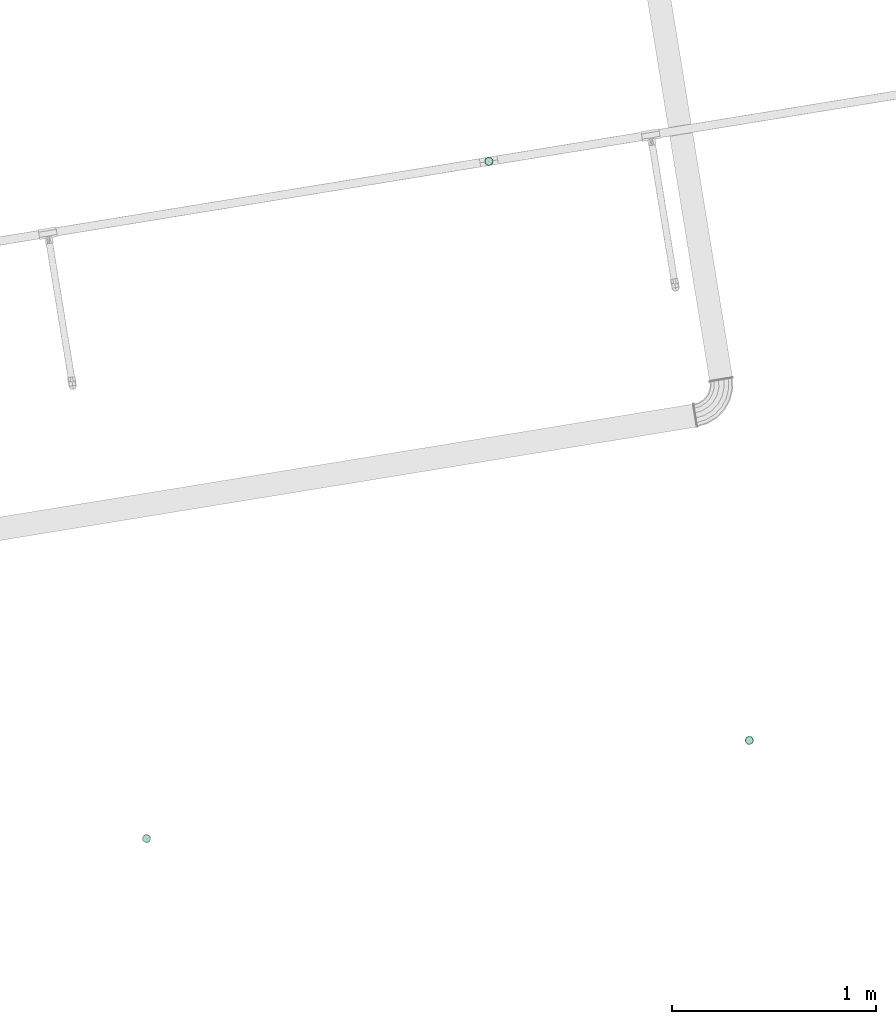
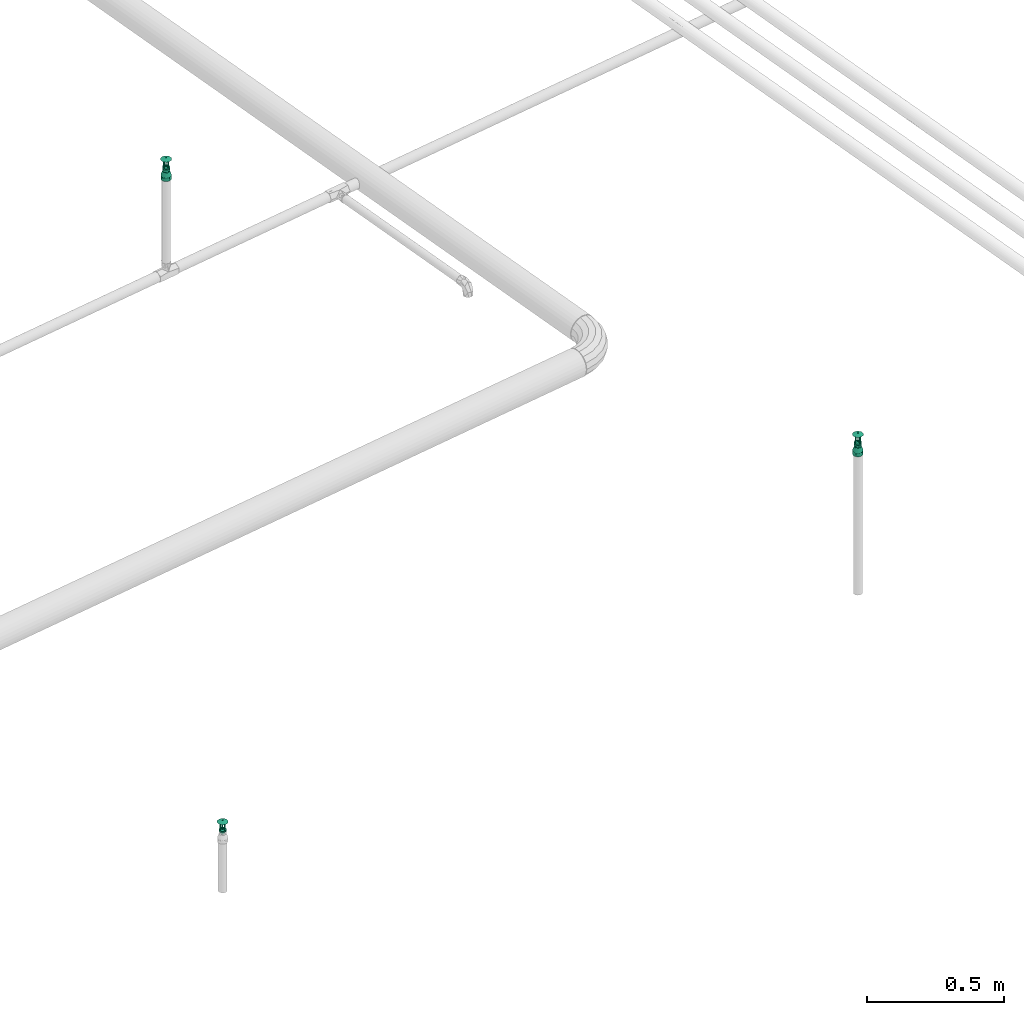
# One storey, part 36 of 46: 3 flow terminals, 2 flow fittings.
"""IFC2X3 building model written with IfcOpenShell, lengths in millimetres."""

from ifc_helpers import new_model, entity, si_unit, converted_unit, derived_unit, direction, frame, origin, origin_with_axes, place, context, subcontext, project, spatial, faceted_brep, source, transform, mapped, material, type_object, element, save


model = new_model("IFC2X3")

# Units and contexts
model_context = context("Model", 3, precision=0.01, world=origin(), true_north=direction((6.12323399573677e-17, 1.0)))
plan_context = context("Plan", 3, precision=1e-05, world=origin_with_axes())
body_context = subcontext(model_context, "Body", "Model", "MODEL_VIEW")
ifc_project = project(units=[converted_unit("PLANEANGLEUNIT", "DEGREE", entity("IfcPositiveLengthMeasure", 0.0174532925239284), si_unit("PLANEANGLEUNIT", "RADIAN"), dimensions=[0, 0, 0, 0, 0, 0, 0]), si_unit("AREAUNIT", "SQUARE_METRE"), si_unit("LENGTHUNIT", "METRE", prefix="MILLI"), si_unit("MASSUNIT", "GRAM", prefix="KILO"), si_unit("POWERUNIT", "WATT"), si_unit("PRESSUREUNIT", "PASCAL", prefix="KILO"), si_unit("FORCEUNIT", "NEWTON", prefix="KILO"), si_unit("ELECTRICVOLTAGEUNIT", "VOLT"), si_unit("ELECTRICCURRENTUNIT", "AMPERE"), si_unit("THERMODYNAMICTEMPERATUREUNIT", "DEGREE_CELSIUS"), si_unit("TIMEUNIT", "SECOND"), si_unit("VOLUMEUNIT", "CUBIC_METRE"), derived_unit("LINEARVELOCITYUNIT", [(si_unit("LENGTHUNIT", "METRE"), 1), (si_unit("TIMEUNIT", "SECOND"), -1)]), derived_unit("VOLUMETRICFLOWRATEUNIT", [(si_unit("VOLUMEUNIT", "CUBIC_METRE"), 1), (si_unit("TIMEUNIT", "SECOND"), -1)]), derived_unit("THERMALTRANSMITTANCEUNIT", [(si_unit("POWERUNIT", "WATT"), 1), (si_unit("THERMODYNAMICTEMPERATUREUNIT", "KELVIN"), -1), (si_unit("AREAUNIT", "SQUARE_METRE"), -1)]), derived_unit("SOUNDPRESSUREUNIT", [(si_unit("PRESSUREUNIT", "PASCAL"), 1)])], contexts=[model_context, plan_context])

# Site, building, storey
site_placement = place(None, frame((-3.09682673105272e-06, 1.93776733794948e-05, 0.0), z_axis=(0.0, 0.0, 1.0), x_axis=(-0.160806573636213, 0.986985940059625, 0.0)))
site = spatial("IfcSite", under=ifc_project, at=site_placement, Name="Default", CompositionType="ELEMENT")
building_placement = place(site_placement, frame((0.0, 0.0, 0.0), z_axis=(0.0, 0.0, 1.0), x_axis=(1.0, -2.77555756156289e-17, 0.0)))
building = spatial("IfcBuilding", under=site, at=building_placement, Name="Bygning (endres i Project Information)", CompositionType="ELEMENT")
storey_placement = place(building_placement, frame((0.0, 0.0, 51360.0000000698), z_axis=(0.0, 0.0, 1.0), x_axis=(1.0, -2.77555756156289e-17, 0.0)))
storey = spatial("IfcBuildingStorey", under=building, at=storey_placement, Name="H01-Nivå D+0,36", CompositionType="ELEMENT", Elevation=51360.0000000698)

# Flow fittings
ifc_material = material(Name="3320.001")
pipe_fitting_type_1 = type_object("IfcPipeFittingType", Name="RS_53_PIF_UN_Reducing-Socket-EN10241_MC_gen:RS_53_PIF_UN_Reducing-Socket-EN10241_MC_gen", PredefinedType="NOTDEFINED", material=ifc_material)
shared_shape_1 = source(origin(), body_context, "Body", "Brep", [
    faceted_brep([(0.0, 0.0, 13.5), (0.0, 3.49405710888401, 13.0399986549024), (0.0, 6.74999999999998, 11.6913429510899), (0.0, 9.54594154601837, 9.54594154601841), (0.0, 11.6913429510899, 6.75000000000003), (0.0, 13.0399986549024, 3.49405710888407), (0.0, 13.5, 0.0), (0.0, 13.0399986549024, -3.49405710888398), (0.0, 11.6913429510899, -6.74999999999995), (0.0, 9.54594154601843, -9.54594154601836), (0.0, 6.75000000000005, -11.6913429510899), (0.0, 3.49405710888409, -13.0399986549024), (0.0, 0.0, -13.5), (0.0, -3.49405710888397, -13.0399986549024), (0.0, -6.74999999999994, -11.69134295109), (0.0, -9.54594154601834, -9.54594154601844), (0.0, -11.6913429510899, -6.75000000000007), (0.0, -13.0399986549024, -3.49405710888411), (0.0, -13.5, 0.0), (0.0, -13.0399986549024, 3.49405710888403), (0.0, -11.6913429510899, 6.74999999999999), (0.0, -9.5459415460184, 9.54594154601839), (0.0, -6.75000000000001, 11.6913429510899), (0.0, -3.49405710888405, 13.0399986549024), (17.0, 4.54589529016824, -12.4935366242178), (17.0, 10.3411162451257, -8.67820919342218), (17.0, 11.5134189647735, -6.64791735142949), (17.0, 12.6857216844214, -4.61762550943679), (17.0, 8.54506932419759, -10.1850582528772), (17.0, 6.74902240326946, -11.6919073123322), (17.0, 13.0928608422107, -2.30881275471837), (17.0, 13.5, 0.0), (17.0, 2.34276817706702, -13.2951659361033), (17.0, -0.00166747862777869, -13.2948718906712), (17.0, -2.34610313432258, -13.2945778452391), (17.0, -8.54762393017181, -10.1829144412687), (17.0, -6.75195505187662, -11.6902139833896), (17.0, -4.5490290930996, -12.4923959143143), (17.0, -11.5150862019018, -6.6450290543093), (17.0, -12.6868795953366, -4.61444320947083), (17.0, -10.343292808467, -8.67561489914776), (17.0, -13.5, 0.0), (17.0, -10.3432928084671, 8.67561489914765), (17.0, -11.5150862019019, 6.64502905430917), (17.0, -12.6868795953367, 4.61444320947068), (17.0, -8.54762393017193, 10.1829144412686), (17.0, -6.75195505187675, 11.6902139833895), (17.0, -4.54902909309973, 12.4923959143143), (17.0, -2.34610313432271, 13.2945778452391), (17.0, -0.00166747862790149, 13.2948718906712), (17.0, 2.3427681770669, 13.2951659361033), (17.0, 12.6857216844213, 4.61762550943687), (17.0, 8.5450693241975, 10.1850582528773), (17.0, 13.0928608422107, 2.30881275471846), (17.0, 11.5134189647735, 6.64791735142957), (17.0, 10.3411162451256, 8.67820919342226), (17.0, 4.54589529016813, 12.4935366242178), (17.0, 6.74902240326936, 11.6919073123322), (34.0, 18.5588149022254, -6.75521201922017), (34.0, -18.5598439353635, -6.75238425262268), (34.0, 9.87413131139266, -17.104503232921), (34.0, -0.00148173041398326, -19.4499240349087), (34.0, 3.42823440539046, -19.4501853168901), (34.0, 6.65118285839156, -18.2773442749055), (34.0, 15.1289479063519, -12.6955675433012), (34.0, 12.5015396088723, -14.9000353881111), (34.0, 16.8438814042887, -9.72538978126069), (34.0, 19.1648351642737, -3.3184704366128), (34.0, -9.87673730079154, -17.1029985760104), (34.0, -15.1308820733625, -12.6932622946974), (34.0, -3.43119786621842, -19.4496627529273), (34.0, -6.65396758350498, -18.2763306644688), (34.0, -16.845363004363, -9.72282327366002), (34.0, -12.503809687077, -14.8981304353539), (34.0, -19.7500000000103, 0.0), (34.0, 19.7499999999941, 0.0), (34.0, 19.1544074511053, 3.37760600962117), (34.0, 6.65118285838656, 18.2773442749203), (34.0, 12.5015396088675, 14.9000353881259), (34.0, -6.65396758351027, 18.2763306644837), (34.0, -3.43119786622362, 19.4496627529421), (34.0, -12.5038096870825, 14.8981304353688), (34.0, -9.87673730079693, 17.1029985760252), (34.0, -15.1308820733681, 12.6932622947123), (34.0, -16.8453630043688, 9.72282327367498), (34.0, -18.5598439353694, 6.75238425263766), (34.0, 16.843881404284, 9.7253897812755), (34.0, 18.5588149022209, 6.75521201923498), (34.0, -0.00148173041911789, 19.4499240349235), (34.0, 3.42823440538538, 19.4501853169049), (34.0, 9.87413131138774, 17.1045032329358), (34.0, 15.1289479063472, 12.695567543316), (51.0, 0.0, -19.75), (51.0, 5.11167614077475, -19.0770350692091), (51.0, 9.87499999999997, -17.1040017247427), (51.0, 13.9653589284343, -13.9653589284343), (51.0, 17.1040017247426, -9.87500000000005), (51.0, 19.0770350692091, -5.11167614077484), (51.0, 19.75, 0.0), (51.0, 19.0770350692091, 5.11167614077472), (51.0, 17.1040017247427, 9.87499999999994), (51.0, 13.9653589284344, 13.9653589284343), (51.0, 9.87500000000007, 17.1040017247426), (51.0, 5.11167614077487, 19.0770350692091), (51.0, 0.0, 19.75), (51.0, -5.11167614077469, 19.0770350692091), (51.0, -9.87499999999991, 17.1040017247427), (51.0, -13.9653589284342, 13.9653589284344), (51.0, -17.1040017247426, 9.8750000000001), (51.0, -19.0770350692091, 5.1116761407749), (51.0, -19.75, 0.0), (51.0, -19.0770350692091, -5.11167614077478), (51.0, -17.1040017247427, -9.87499999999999), (51.0, -13.9653589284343, -13.9653589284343), (51.0, -9.87500000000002, -17.1040017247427), (51.0, -5.11167614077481, -19.0770350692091)], [[[0, 1, 2, 3, 4, 5, 6, 7, 8, 9, 10, 11, 12, 13, 14, 15, 16, 17, 18, 19, 20, 21, 22, 23]], [[11, 10, 24]], [[25, 9, 8]], [[26, 25, 8, 27]], [[10, 28, 29]], [[30, 27, 7]], [[6, 31, 30]], [[7, 6, 30]], [[24, 32, 11]], [[28, 9, 25]], [[33, 34, 12, 32]], [[15, 14, 35]], [[9, 28, 10]], [[10, 29, 24]], [[13, 12, 34]], [[36, 14, 37]], [[38, 39, 16, 40]], [[13, 37, 14]], [[39, 17, 16]], [[35, 40, 15]], [[37, 13, 34]], [[11, 32, 12]], [[15, 40, 16]], [[39, 41, 17]], [[7, 27, 8]], [[41, 18, 17]], [[14, 36, 35]], [[19, 18, 41]], [[42, 21, 20]], [[43, 42, 20, 44]], [[22, 45, 46]], [[19, 41, 44]], [[47, 48, 23]], [[45, 21, 42]], [[49, 50, 0, 48]], [[21, 45, 22]], [[23, 22, 47]], [[22, 46, 47]], [[19, 44, 20]], [[0, 50, 1]], [[51, 5, 4]], [[3, 2, 52]], [[5, 53, 6]], [[54, 51, 4, 55]], [[53, 31, 6]], [[1, 50, 56]], [[56, 57, 2]], [[3, 55, 4]], [[1, 56, 2]], [[52, 55, 3]], [[23, 48, 0]], [[5, 51, 53]], [[2, 57, 52]], [[27, 30, 58]], [[38, 59, 39]], [[28, 60, 29]], [[61, 32, 62]], [[29, 60, 63]], [[25, 64, 65]], [[28, 25, 65]], [[27, 58, 66]], [[26, 27, 66]], [[30, 31, 67]], [[66, 64, 26]], [[33, 32, 61]], [[26, 64, 25]], [[37, 68, 36]], [[65, 60, 28]], [[35, 69, 40]], [[70, 34, 33]], [[34, 70, 71]], [[37, 34, 71]], [[61, 70, 33]], [[40, 69, 72]], [[36, 68, 73]], [[41, 39, 74]], [[75, 67, 31]], [[72, 59, 38]], [[24, 62, 32]], [[73, 69, 35]], [[39, 59, 74]], [[30, 67, 58]], [[24, 29, 63]], [[63, 62, 24]], [[35, 36, 73]], [[71, 68, 37]], [[38, 40, 72]], [[74, 44, 41]], [[53, 76, 31]], [[56, 77, 57]], [[52, 78, 55]], [[79, 80, 48]], [[81, 82, 46]], [[42, 83, 45]], [[84, 83, 42]], [[44, 85, 43]], [[85, 44, 74]], [[83, 81, 45]], [[43, 85, 84]], [[54, 86, 51]], [[53, 51, 87]], [[79, 47, 82]], [[46, 82, 47]], [[88, 89, 50]], [[90, 57, 77]], [[50, 89, 56]], [[48, 80, 49]], [[87, 51, 86]], [[91, 55, 78]], [[31, 76, 75]], [[47, 79, 48]], [[56, 89, 77]], [[49, 88, 50]], [[54, 91, 86]], [[87, 76, 53]], [[45, 81, 46]], [[78, 52, 90]], [[43, 84, 42]], [[57, 90, 52]], [[80, 88, 49]], [[55, 91, 54]], [[92, 93, 94, 95, 96, 97, 98, 99, 100, 101, 102, 103, 104, 105, 106, 107, 108, 109, 110, 111, 112, 113, 114, 115]], [[111, 110, 74]], [[69, 113, 112]], [[72, 69, 112, 59]], [[114, 73, 68]], [[111, 74, 59]], [[71, 70, 115]], [[73, 113, 69]], [[61, 62, 92, 70]], [[113, 73, 114]], [[93, 92, 62]], [[95, 64, 96]], [[60, 94, 63]], [[111, 59, 112]], [[114, 68, 71]], [[94, 60, 65]], [[67, 75, 98]], [[93, 63, 94]], [[65, 64, 95]], [[63, 93, 62]], [[115, 114, 71]], [[97, 67, 98]], [[97, 96, 58]], [[58, 67, 97]], [[95, 94, 65]], [[96, 64, 66, 58]], [[115, 70, 92]], [[103, 102, 77]], [[91, 101, 100]], [[86, 91, 100, 87]], [[102, 78, 90]], [[76, 87, 99]], [[99, 98, 76]], [[99, 87, 100]], [[77, 89, 103]], [[78, 101, 91]], [[88, 80, 104, 89]], [[102, 90, 77]], [[101, 78, 102]], [[98, 75, 76]], [[105, 104, 80]], [[82, 106, 79]], [[84, 85, 108, 83]], [[105, 79, 106]], [[85, 109, 108]], [[81, 83, 107]], [[79, 105, 80]], [[107, 83, 108]], [[106, 82, 81]], [[85, 74, 109]], [[74, 110, 109]], [[103, 89, 104]], [[107, 106, 81]]]),
])
flow_fitting_1_placement = place(storey_placement, frame((1003275.40186569, -351978.631006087, 3818.99999993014), z_axis=(2.77555756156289e-17, 1.0, 0.0), x_axis=(0.0, 0.0, -1.0)))
element("IfcFlowFitting", 1, at=flow_fitting_1_placement, inside=storey, type_object=pipe_fitting_type_1, material=ifc_material, Name="RS_53_PIF_UN_Reducing-Socket-EN10241_MC_gen:RS_53_PIF_UN_Reducing-Socket-EN10241_MC_gen", ObjectType="RS_53_PIF_UN_Reducing-Socket-EN10241_MC_gen:RS_53_PIF_UN_Reducing-Socket-EN10241_MC_gen", context=body_context, shape_type="MappedRepresentation", body=[
    mapped(shared_shape_1, transform((0.0, 0.0, 0.0), scale=1.0)),
])
pipe_fitting_type_2 = type_object("IfcPipeFittingType", Name="RS_53_PIF_UN_Reducing-Socket-EN10241_MC_gen:RS_53_PIF_UN_Reducing-Socket-EN10241_MC_gen", PredefinedType="NOTDEFINED", material=ifc_material)
shared_shape_2 = source(origin(), body_context, "Body", "Brep", [
    faceted_brep([(0.0, 5.11167614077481, 19.0770350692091), (0.0, 9.87500000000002, 17.1040017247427), (0.0, 13.9653589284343, 13.9653589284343), (0.0, 17.1040017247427, 9.87499999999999), (0.0, 19.0770350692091, 5.11167614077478), (0.0, 19.75, 0.0), (0.0, 19.0770350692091, -5.1116761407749), (0.0, 17.1040017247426, -9.8750000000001), (0.0, 13.9653589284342, -13.9653589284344), (0.0, 9.87499999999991, -17.1040017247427), (0.0, 5.11167614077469, -19.0770350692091), (0.0, 0.0, -19.75), (0.0, -5.11167614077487, -19.0770350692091), (0.0, -9.87500000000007, -17.1040017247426), (0.0, -13.9653589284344, -13.9653589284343), (0.0, -17.1040017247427, -9.87499999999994), (0.0, -19.0770350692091, -5.11167614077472), (0.0, -19.75, 0.0), (0.0, -19.0770350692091, 5.11167614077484), (0.0, -17.1040017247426, 9.87500000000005), (0.0, -13.9653589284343, 13.9653589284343), (0.0, -9.87499999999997, 17.1040017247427), (0.0, -5.11167614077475, 19.0770350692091), (0.0, 0.0, 19.75), (17.0, -6.65118285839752, -18.277344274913), (17.0, -15.1289479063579, -12.6955675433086), (17.0, -16.8438814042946, -9.72538978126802), (17.0, -18.5588149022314, -6.7552120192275), (17.0, -9.87413131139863, -17.1045032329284), (17.0, -12.5015396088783, -14.9000353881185), (17.0, -19.1544074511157, -3.37760600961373), (17.0, -3.42823440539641, -19.4501853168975), (17.0, 3.43119786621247, -19.4496627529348), (17.0, 0.0014817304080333, -19.4499240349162), (17.0, -19.75, 0.0), (17.0, 6.65396758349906, -18.2763306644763), (17.0, 9.87673730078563, -17.1029985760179), (17.0, 18.5598439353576, -6.75238425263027), (17.0, 16.8453630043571, -9.7228232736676), (17.0, 15.1308820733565, -12.6932622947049), (17.0, 12.5038096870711, -14.8981304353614), (17.0, 19.75, 0.0), (17.0, 15.1308820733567, 12.6932622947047), (17.0, 16.8453630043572, 9.72282327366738), (17.0, 18.5598439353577, 6.75238425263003), (17.0, 9.87673730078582, 17.1029985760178), (17.0, 12.5038096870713, 14.8981304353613), (17.0, 3.43119786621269, 19.4496627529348), (17.0, 6.65396758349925, 18.2763306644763), (17.0, -3.4282344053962, 19.4501853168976), (17.0, 0.00148173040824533, 19.4499240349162), (17.0, -15.1289479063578, 12.6955675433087), (17.0, -6.65118285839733, 18.277344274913), (17.0, -9.87413131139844, 17.1045032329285), (17.0, -12.5015396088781, 14.9000353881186), (17.0, -19.1544074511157, 3.37760600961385), (17.0, -18.5588149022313, 6.75521201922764), (17.0, -16.8438814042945, 9.72538978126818), (34.0, 13.5000000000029, 0.0), (34.0, 12.6868795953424, -4.61444320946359), (34.0, -4.54589529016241, -12.4935366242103), (34.0, -2.34276817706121, -13.2951659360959), (34.0, 6.75195505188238, -11.6902139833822), (34.0, 0.00166747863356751, -13.2948718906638), (34.0, 2.34610313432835, -13.2945778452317), (34.0, 10.3432928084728, -8.67561489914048), (34.0, 8.54762393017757, -10.1829144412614), (34.0, 4.54902909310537, -12.492395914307), (34.0, 11.5150862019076, -6.64502905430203), (34.0, -6.74902240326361, -11.6919073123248), (34.0, -13.4999999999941, 0.0), (34.0, -13.0928608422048, -2.30881275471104), (34.0, -10.3411162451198, -8.6782091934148), (34.0, -8.54506932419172, -10.1850582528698), (34.0, -12.6857216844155, -4.61762550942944), (34.0, -11.5134189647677, -6.64791735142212), (34.0, -13.0928608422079, 2.30881275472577), (34.0, -12.6857216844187, 4.6176255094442), (34.0, 2.34610313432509, 13.2945778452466), (34.0, 4.54902909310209, 12.4923959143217), (34.0, -10.3411162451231, 8.67820919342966), (34.0, 0.00166747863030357, 13.2948718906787), (34.0, -6.74902240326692, 11.6919073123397), (34.0, -8.54506932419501, 10.1850582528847), (34.0, -11.5134189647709, 6.64791735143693), (34.0, -2.34276817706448, 13.2951659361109), (34.0, -4.5458952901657, 12.4935366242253), (34.0, 12.6868795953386, 4.61444320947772), (34.0, 11.5150862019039, 6.64502905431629), (34.0, 10.3432928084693, 8.67561489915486), (34.0, 6.7519550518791, 11.6902139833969), (34.0, 8.54762393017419, 10.1829144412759), (51.0, 3.49405710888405, -13.0399986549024), (51.0, 6.75000000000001, -11.6913429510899), (51.0, 9.5459415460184, -9.54594154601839), (51.0, 11.6913429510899, -6.74999999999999), (51.0, 13.0399986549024, -3.49405710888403), (51.0, 13.5, 0.0), (51.0, 13.0399986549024, 3.49405710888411), (51.0, 11.6913429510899, 6.75000000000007), (51.0, 9.54594154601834, 9.54594154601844), (51.0, 6.74999999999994, 11.69134295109), (51.0, 3.49405710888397, 13.0399986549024), (51.0, 0.0, 13.5), (51.0, -3.49405710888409, 13.0399986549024), (51.0, -6.75000000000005, 11.6913429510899), (51.0, -9.54594154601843, 9.54594154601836), (51.0, -11.6913429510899, 6.74999999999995), (51.0, -13.0399986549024, 3.49405710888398), (51.0, -13.5, 0.0), (51.0, -13.0399986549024, -3.49405710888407), (51.0, -11.6913429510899, -6.75000000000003), (51.0, -9.54594154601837, -9.54594154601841), (51.0, -6.74999999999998, -11.6913429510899), (51.0, -3.49405710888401, -13.0399986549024), (51.0, 0.0, -13.5)], [[[0, 1, 2, 3, 4, 5, 6, 7, 8, 9, 10, 11, 12, 13, 14, 15, 16, 17, 18, 19, 20, 21, 22, 23]], [[24, 13, 12]], [[15, 14, 25]], [[15, 25, 26, 27]], [[28, 29, 13]], [[16, 27, 30]], [[30, 17, 16]], [[15, 27, 16]], [[12, 31, 24]], [[25, 14, 29]], [[11, 32, 33, 31]], [[24, 28, 13]], [[13, 29, 14]], [[30, 34, 17]], [[32, 11, 10]], [[35, 9, 36]], [[7, 37, 38, 39]], [[9, 35, 10]], [[7, 6, 37]], [[8, 39, 40]], [[32, 10, 35]], [[7, 39, 8]], [[40, 36, 9]], [[6, 41, 37]], [[6, 5, 41]], [[11, 31, 12]], [[40, 9, 8]], [[41, 5, 4]], [[3, 2, 42]], [[3, 42, 43, 44]], [[45, 46, 1]], [[44, 41, 4]], [[0, 47, 48]], [[42, 2, 46]], [[23, 49, 50, 47]], [[1, 46, 2]], [[49, 23, 22]], [[19, 51, 20]], [[52, 21, 53]], [[3, 44, 4]], [[48, 45, 1]], [[54, 53, 21]], [[17, 34, 55]], [[21, 52, 22]], [[20, 51, 54]], [[49, 22, 52]], [[48, 1, 0]], [[17, 55, 18]], [[56, 19, 18]], [[18, 55, 56]], [[54, 21, 20]], [[57, 51, 19, 56]], [[23, 47, 0]], [[41, 58, 59]], [[60, 31, 61]], [[40, 62, 36]], [[63, 32, 64]], [[65, 39, 38]], [[64, 32, 35]], [[61, 33, 63]], [[37, 41, 59]], [[62, 40, 66]], [[40, 39, 66]], [[35, 36, 67]], [[65, 38, 68]], [[37, 68, 38]], [[64, 35, 67]], [[61, 31, 33]], [[69, 28, 24]], [[69, 24, 60]], [[70, 30, 71]], [[72, 29, 73]], [[30, 70, 34]], [[74, 27, 26]], [[68, 37, 59]], [[72, 25, 29]], [[27, 74, 71]], [[31, 60, 24]], [[29, 28, 73]], [[75, 26, 25]], [[67, 36, 62]], [[66, 39, 65]], [[27, 71, 30]], [[74, 26, 75]], [[73, 28, 69]], [[63, 33, 32]], [[75, 25, 72]], [[56, 76, 77]], [[48, 78, 79]], [[54, 51, 80]], [[81, 47, 50]], [[57, 56, 77]], [[52, 53, 82]], [[82, 53, 83]], [[55, 70, 76]], [[70, 55, 34]], [[84, 51, 57]], [[50, 85, 81]], [[56, 55, 76]], [[86, 49, 52]], [[83, 53, 54]], [[81, 78, 47]], [[48, 47, 78]], [[80, 51, 84]], [[49, 85, 50]], [[87, 44, 88]], [[87, 58, 41]], [[43, 42, 89]], [[57, 77, 84]], [[46, 45, 90]], [[85, 49, 86]], [[88, 44, 43]], [[54, 80, 83]], [[91, 42, 46]], [[52, 82, 86]], [[89, 42, 91]], [[87, 41, 44]], [[90, 45, 79]], [[46, 90, 91]], [[79, 45, 48]], [[43, 89, 88]], [[92, 93, 94, 95, 96, 97, 98, 99, 100, 101, 102, 103, 104, 105, 106, 107, 108, 109, 110, 111, 112, 113, 114, 115]], [[58, 97, 96]], [[95, 94, 65]], [[95, 65, 68, 59]], [[62, 66, 93]], [[59, 58, 96]], [[92, 64, 67]], [[65, 94, 66]], [[115, 61, 63, 64]], [[93, 66, 94]], [[67, 93, 92]], [[67, 62, 93]], [[95, 59, 96]], [[114, 61, 115]], [[111, 110, 74]], [[73, 113, 112]], [[109, 71, 110]], [[111, 74, 75, 72]], [[109, 70, 71]], [[60, 61, 114]], [[113, 69, 60]], [[111, 72, 112]], [[113, 60, 114]], [[112, 72, 73]], [[115, 64, 92]], [[71, 74, 110]], [[73, 69, 113]], [[86, 105, 104]], [[107, 106, 80]], [[107, 80, 84, 77]], [[82, 83, 105]], [[108, 77, 76]], [[76, 70, 109]], [[76, 109, 108]], [[104, 85, 86]], [[80, 106, 83]], [[103, 78, 81, 85]], [[91, 101, 100]], [[105, 83, 106]], [[86, 82, 105]], [[78, 103, 102]], [[79, 101, 90]], [[99, 87, 88, 89]], [[101, 79, 102]], [[99, 98, 87]], [[100, 89, 91]], [[78, 102, 79]], [[103, 85, 104]], [[99, 89, 100]], [[98, 58, 87]], [[107, 77, 108]], [[98, 97, 58]], [[91, 90, 101]]]),
])
flow_fitting_2_placement = place(storey_placement, frame((1006288.36764382, -351173.710237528, 3719.81212530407), z_axis=(2.77555756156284e-17, 0.99999999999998, 2.00941174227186e-07), x_axis=(0.0, -2.00941174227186e-07, 0.99999999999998)))
element("IfcFlowFitting", 2, at=flow_fitting_2_placement, inside=storey, type_object=pipe_fitting_type_2, material=ifc_material, Name="RS_53_PIF_UN_Reducing-Socket-EN10241_MC_gen:RS_53_PIF_UN_Reducing-Socket-EN10241_MC_gen", ObjectType="RS_53_PIF_UN_Reducing-Socket-EN10241_MC_gen:RS_53_PIF_UN_Reducing-Socket-EN10241_MC_gen", context=body_context, shape_type="MappedRepresentation", body=[
    mapped(shared_shape_2, transform((0.0, 0.0, 0.0), scale=1.0)),
])

# Flow terminals
fire_suppression_terminal_type = type_object("IfcFireSuppressionTerminalType", Name="SU-15-K80-68DGR-STD:SU-15-K80-68DGR-STD", PredefinedType="NOTDEFINED", material=ifc_material)
shared_shape_3 = source(origin(), body_context, "Body", "Brep", [
    faceted_brep([(-2.5, 0.0, 62.0), (0.0, -2.5, 62.0), (2.5, 0.0, 62.0), (0.0, 2.5, 62.0), (0.0, 2.5, 59.0), (2.5, 0.0, 59.0), (0.0, -2.5, 59.0), (-2.5, 0.0, 59.0)], [[[0, 1, 2, 3]], [[4, 5, 6, 7]], [[3, 4, 7, 0]], [[2, 5, 4, 3]], [[1, 6, 5, 2]], [[0, 7, 6, 1]]]),
    faceted_brep([(1.0, 13.5, 47.0), (1.0, -13.5, 47.0), (1.0, -13.5, 19.0), (1.0, -8.5, 19.0), (1.0, -8.5, 42.0), (1.0, 8.5, 42.0), (1.0, 8.5, 19.0), (1.0, 13.5, 19.0), (-1.0, 13.5, 47.0), (-1.0, 13.5, 19.0), (-1.0, 8.5, 19.0), (-1.0, 8.5, 42.0), (-1.0, -8.5, 42.0), (-1.0, -8.5, 19.0), (-1.0, -13.5, 19.0), (-1.0, -13.5, 47.0)], [[[0, 1, 2, 3, 4, 5, 6, 7]], [[8, 9, 10, 11, 12, 13, 14, 15]], [[7, 9, 8, 0]], [[6, 10, 9, 7]], [[5, 11, 10, 6]], [[4, 12, 11, 5]], [[3, 13, 12, 4]], [[2, 14, 13, 3]], [[1, 15, 14, 2]], [[0, 8, 15, 1]]]),
    faceted_brep([(-13.5, -1.0, 47.0), (-13.5, -1.0, 19.0), (-8.5, -1.0, 19.0), (-8.5, -1.0, 42.0), (8.5, -1.0, 42.0), (8.5, -1.0, 19.0), (13.5, -1.0, 19.0), (13.5, -1.0, 47.0), (-13.5, 1.0, 47.0), (13.5, 1.0, 47.0), (13.5, 1.0, 19.0), (8.5, 1.0, 19.0), (8.5, 1.0, 42.0), (-8.5, 1.0, 42.0), (-8.5, 1.0, 19.0), (-13.5, 1.0, 19.0)], [[[0, 1, 2, 3, 4, 5, 6, 7]], [[8, 9, 10, 11, 12, 13, 14, 15]], [[7, 9, 8, 0]], [[6, 10, 9, 7]], [[5, 11, 10, 6]], [[4, 12, 11, 5]], [[3, 13, 12, 4]], [[2, 14, 13, 3]], [[1, 15, 14, 2]], [[0, 8, 15, 1]]]),
    faceted_brep([(2.5, 0.0, 59.0), (0.0, 2.5, 59.0), (-2.5, 0.0, 59.0), (0.0, -2.5, 59.0), (-6.48935688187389, -19.9721868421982, 53.0), (-16.9893568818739, -12.3434902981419, 53.0), (-21.0, 0.0, 53.0), (-16.9893568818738, 12.343490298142, 53.0), (-6.48935688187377, 19.9721868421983, 53.0), (6.48935688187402, 19.9721868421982, 53.0), (16.989356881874, 12.3434902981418, 53.0), (21.0, 0.0, 53.0), (16.9893568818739, -12.3434902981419, 53.0), (6.4893568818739, -19.9721868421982, 53.0)], [[[0, 1, 2, 3]], [[4, 5, 6, 7, 8, 9, 10, 11, 12, 13]], [[10, 0, 11]], [[10, 9, 1]], [[1, 0, 10]], [[7, 2, 1]], [[8, 7, 1]], [[6, 2, 7]], [[9, 8, 1]], [[5, 2, 6]], [[5, 4, 3]], [[3, 2, 5]], [[12, 0, 3]], [[13, 12, 3]], [[11, 0, 12]], [[4, 13, 3]]]),
    faceted_brep([(-2.5, 0.0, 53.0), (0.0, -2.5, 53.0), (2.5, 0.0, 53.0), (0.0, 2.5, 53.0), (0.0, 2.5, 19.0), (2.5, 0.0, 19.0), (0.0, -2.5, 19.0), (-2.5, 0.0, 19.0)], [[[0, 1, 2, 3]], [[4, 5, 6, 7]], [[3, 4, 7, 0]], [[2, 5, 4, 3]], [[1, 6, 5, 2]], [[0, 7, 6, 1]]]),
    faceted_brep([(7.0, 12.1243556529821, 19.0), (3.62346663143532, 13.5229615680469, 19.0), (0.0, 14.0, 19.0), (-3.62346663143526, 13.522961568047, 19.0), (-7.0, 12.1243556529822, 19.0), (-9.89949493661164, 9.89949493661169, 19.0), (-12.1243556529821, 7.0, 19.0), (-13.5229615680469, 3.62346663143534, 19.0), (-14.0, 0.0, 19.0), (-13.5229615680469, -3.62346663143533, 19.0), (-12.1243556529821, -7.0, 19.0), (-9.89949493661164, -9.89949493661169, 19.0), (-7.0, -12.1243556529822, 19.0), (-3.62346663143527, -13.522961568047, 19.0), (0.0, -14.0, 19.0), (3.62346663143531, -13.522961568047, 19.0), (7.0, -12.1243556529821, 19.0), (9.89949493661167, -9.89949493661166, 19.0), (12.1243556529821, -7.0, 19.0), (13.522961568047, -3.62346663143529, 19.0), (14.0, 0.0, 19.0), (13.522961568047, 3.62346663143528, 19.0), (12.1243556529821, 7.0, 19.0), (9.89949493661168, 9.89949493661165, 19.0), (9.89949493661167, -9.89949493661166, 13.0), (7.0, -12.1243556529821, 13.0), (3.62346663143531, -13.522961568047, 13.0), (0.0, -14.0, 13.0), (-3.62346663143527, -13.522961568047, 13.0), (-7.0, -12.1243556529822, 13.0), (-9.89949493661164, -9.89949493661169, 13.0), (-12.1243556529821, -7.0, 13.0), (-13.5229615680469, -3.62346663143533, 13.0), (-14.0, 0.0, 13.0), (-13.5229615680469, 3.62346663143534, 13.0), (-12.1243556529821, 7.0, 13.0), (-9.89949493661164, 9.89949493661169, 13.0), (-7.0, 12.1243556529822, 13.0), (-3.62346663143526, 13.522961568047, 13.0), (0.0, 14.0, 13.0), (3.62346663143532, 13.5229615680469, 13.0), (7.0, 12.1243556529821, 13.0), (9.89949493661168, 9.89949493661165, 13.0), (12.1243556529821, 7.0, 13.0), (13.522961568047, 3.62346663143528, 13.0), (14.0, 0.0, 13.0), (13.522961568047, -3.62346663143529, 13.0), (12.1243556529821, -7.0, 13.0)], [[[0, 1, 2, 3, 4, 5, 6, 7, 8, 9, 10, 11, 12, 13, 14, 15, 16, 17, 18, 19, 20, 21, 22, 23]], [[24, 25, 26, 27, 28, 29, 30, 31, 32, 33, 34, 35, 36, 37, 38, 39, 40, 41, 42, 43, 44, 45, 46, 47]], [[33, 8, 7, 34]], [[34, 7, 6, 35]], [[37, 36, 5, 4]], [[5, 36, 35, 6]], [[38, 37, 4, 3]], [[38, 3, 2, 39]], [[39, 2, 1, 40]], [[40, 1, 0, 41]], [[43, 42, 23, 22]], [[23, 42, 41, 0]], [[44, 43, 22, 21]], [[44, 21, 20, 45]], [[45, 20, 19, 46]], [[46, 19, 18, 47]], [[25, 24, 17, 16]], [[17, 24, 47, 18]], [[26, 25, 16, 15]], [[26, 15, 14, 27]], [[27, 14, 13, 28]], [[28, 13, 12, 29]], [[31, 30, 11, 10]], [[11, 30, 29, 12]], [[32, 31, 10, 9]], [[32, 9, 8, 33]]]),
    faceted_brep([(3.75000000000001, 6.49519052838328, 13.0), (1.94114283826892, 7.24444369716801, 13.0), (0.0, 7.5, 13.0), (-1.94114283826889, 7.24444369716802, 13.0), (-3.74999999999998, 6.4951905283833, 13.0), (-5.30330085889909, 5.30330085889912, 13.0), (-6.49519052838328, 3.75000000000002, 13.0), (-7.244443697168, 1.94114283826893, 13.0), (-7.5, 0.0, 13.0), (-7.24444369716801, -1.94114283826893, 13.0), (-6.49519052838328, -3.75000000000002, 13.0), (-5.3033008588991, -5.30330085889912, 13.0), (-3.74999999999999, -6.4951905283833, 13.0), (-1.94114283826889, -7.24444369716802, 13.0), (0.0, -7.5, 13.0), (1.94114283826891, -7.24444369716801, 13.0), (3.75000000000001, -6.49519052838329, 13.0), (5.30330085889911, -5.3033008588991, 13.0), (6.49519052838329, -3.75, 13.0), (7.24444369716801, -1.9411428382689, 13.0), (7.5, 0.0, 13.0), (7.24444369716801, 1.9411428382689, 13.0), (6.49519052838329, 3.75, 13.0), (5.30330085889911, 5.3033008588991, 13.0), (5.30330085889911, -5.3033008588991, 0.0), (3.75000000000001, -6.49519052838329, 0.0), (1.94114283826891, -7.24444369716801, 0.0), (0.0, -7.5, 0.0), (-1.94114283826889, -7.24444369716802, 0.0), (-3.74999999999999, -6.4951905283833, 0.0), (-5.3033008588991, -5.30330085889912, 0.0), (-6.49519052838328, -3.75000000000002, 0.0), (-7.24444369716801, -1.94114283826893, 0.0), (-7.5, 0.0, 0.0), (-7.244443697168, 1.94114283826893, 0.0), (-6.49519052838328, 3.75000000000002, 0.0), (-5.30330085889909, 5.30330085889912, 0.0), (-3.74999999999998, 6.4951905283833, 0.0), (-1.94114283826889, 7.24444369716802, 0.0), (0.0, 7.5, 0.0), (1.94114283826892, 7.24444369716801, 0.0), (3.75000000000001, 6.49519052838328, 0.0), (5.30330085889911, 5.3033008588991, 0.0), (6.49519052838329, 3.75, 0.0), (7.24444369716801, 1.9411428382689, 0.0), (7.5, 0.0, 0.0), (7.24444369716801, -1.9411428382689, 0.0), (6.49519052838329, -3.75, 0.0)], [[[0, 1, 2, 3, 4, 5, 6, 7, 8, 9, 10, 11, 12, 13, 14, 15, 16, 17, 18, 19, 20, 21, 22, 23]], [[24, 25, 26, 27, 28, 29, 30, 31, 32, 33, 34, 35, 36, 37, 38, 39, 40, 41, 42, 43, 44, 45, 46, 47]], [[33, 8, 7, 34]], [[34, 7, 6, 35]], [[37, 36, 5, 4]], [[5, 36, 35, 6]], [[38, 37, 4, 3]], [[38, 3, 2, 39]], [[39, 2, 1, 40]], [[40, 1, 0, 41]], [[43, 42, 23, 22]], [[23, 42, 41, 0]], [[44, 43, 22, 21]], [[44, 21, 20, 45]], [[45, 20, 19, 46]], [[46, 19, 18, 47]], [[25, 24, 17, 16]], [[17, 24, 47, 18]], [[26, 25, 16, 15]], [[26, 15, 14, 27]], [[27, 14, 13, 28]], [[28, 13, 12, 29]], [[31, 30, 11, 10]], [[11, 30, 29, 12]], [[32, 31, 10, 9]], [[32, 9, 8, 33]]]),
])
for number, where, z_axis, x_axis in (
    (3, (1003275.40186569, -351978.631006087, 3801.99999993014), (0.0, 0.0, 1.0), (-1.0, 2.77555756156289e-17, 0.0)),
    (4, (1006288.36764382, -351173.710240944, 3753.81212530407), (0.0, 0.0, 1.0), (-1.0, 2.77555756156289e-17, 0.0)),
    (5, (1003275.40186569, -348978.631006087, 3401.99999993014), (0.0, 0.0, 1.0), (-1.0, 2.77555756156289e-17, 0.0)),
):
    element("IfcFlowTerminal", number, at=place(storey_placement, frame(where, z_axis=z_axis, x_axis=x_axis)), inside=storey, type_object=fire_suppression_terminal_type, material=ifc_material, Name="SU-15-K80-68DGR-STD:SU-15-K80-68DGR-STD", ObjectType="SU-15-K80-68DGR-STD:SU-15-K80-68DGR-STD", context=body_context, shape_type="MappedRepresentation", body=[
        mapped(shared_shape_3, transform((0.0, 0.0, 0.0), scale=1.0)),
    ])

save(model, "model.ifc")
